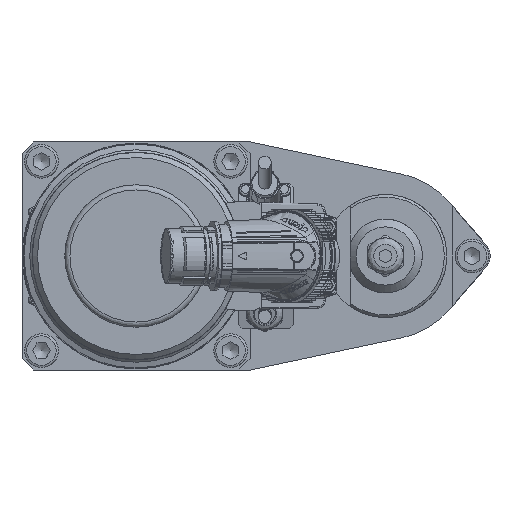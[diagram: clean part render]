
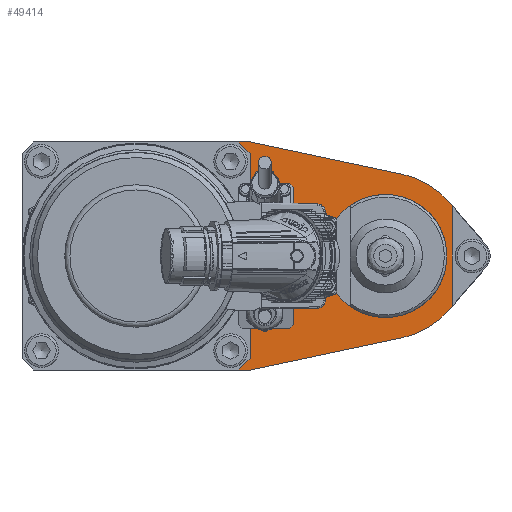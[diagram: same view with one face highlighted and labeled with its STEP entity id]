
A CAD part, left-side view. The second image highlights one B-rep face of the part: STEP entity #49414.
In plain terms, the highlighted planar face has unit normal (-1, 0, 0).
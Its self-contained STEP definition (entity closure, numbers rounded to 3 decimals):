
#1131 = CARTESIAN_POINT ( 'NONE',  ( -132., 52.213, -39.5 ) ) ;
#2420 = VERTEX_POINT ( 'NONE', #37586 ) ;
#3136 = VECTOR ( 'NONE', #42956, 1000. ) ;
#3553 = LINE ( 'NONE', #93646, #3136 ) ;
#3922 = ORIENTED_EDGE ( 'NONE', *, *, #51636, .F. ) ;
#5464 = CARTESIAN_POINT ( 'NONE',  ( -132., 19., 14.25 ) ) ;
#6250 = EDGE_CURVE ( 'NONE', #87707, #22610, #12672, .T. ) ;
#6706 = CARTESIAN_POINT ( 'NONE',  ( -132., 56.713, -44. ) ) ;
#7951 = DIRECTION ( 'NONE',  ( 0., 0., 1. ) ) ;
#8277 = VERTEX_POINT ( 'NONE', #21340 ) ;
#9535 = DIRECTION ( 'NONE',  ( 0., 0.707, -0.707 ) ) ;
#11075 = EDGE_CURVE ( 'NONE', #15580, #93232, #43860, .T. ) ;
#11140 = CARTESIAN_POINT ( 'NONE',  ( -132., 0., 0. ) ) ;
#11397 = EDGE_CURVE ( 'NONE', #81854, #2420, #39973, .T. ) ;
#12672 = CIRCLE ( 'NONE', #72614, 32.2 ) ;
#12693 = DIRECTION ( 'NONE',  ( 0., 0.656, -0.755 ) ) ;
#15580 = VERTEX_POINT ( 'NONE', #32233 ) ;
#17047 = DIRECTION ( 'NONE',  ( 0., 1., 0. ) ) ;
#17406 = CARTESIAN_POINT ( 'NONE',  ( -132., 140.213, -44. ) ) ;
#18507 = ORIENTED_EDGE ( 'NONE', *, *, #74931, .F. ) ;
#19618 = DIRECTION ( 'NONE',  ( 0., 0., 1. ) ) ;
#21340 = CARTESIAN_POINT ( 'NONE',  ( -132., -24.302, 21.125 ) ) ;
#21900 = CARTESIAN_POINT ( 'NONE',  ( -132., 140.213, 44. ) ) ;
#22185 = VECTOR ( 'NONE', #90209, 1000. ) ;
#22291 = LINE ( 'NONE', #73187, #22185 ) ;
#22610 = VERTEX_POINT ( 'NONE', #23177 ) ;
#23177 = CARTESIAN_POINT ( 'NONE',  ( -132., -6.695, -31.496 ) ) ;
#25323 = EDGE_CURVE ( 'NONE', #25454, #87707, #89367, .T. ) ;
#25454 = VERTEX_POINT ( 'NONE', #47859 ) ;
#25601 = CARTESIAN_POINT ( 'NONE',  ( -132., 0., 0. ) ) ;
#27997 = DIRECTION ( 'NONE',  ( -1., 0., 0. ) ) ;
#28223 = EDGE_CURVE ( 'NONE', #2420, #67936, #48716, .T. ) ;
#29622 = VECTOR ( 'NONE', #17047, 1000. ) ;
#29739 = LINE ( 'NONE', #17406, #29622 ) ;
#30214 = EDGE_CURVE ( 'NONE', #68749, #97334, #22291, .T. ) ;
#31295 = AXIS2_PLACEMENT_3D ( 'NONE', #91909, #58645, #7951 ) ;
#32233 = CARTESIAN_POINT ( 'NONE',  ( -132., 52.13, 44. ) ) ;
#33166 = EDGE_CURVE ( 'NONE', #52368, #25454, #91230, .T. ) ;
#33387 = CARTESIAN_POINT ( 'NONE',  ( -132., 52.13, -44. ) ) ;
#33525 = ORIENTED_EDGE ( 'NONE', *, *, #30214, .F. ) ;
#33862 = ORIENTED_EDGE ( 'NONE', *, *, #25323, .F. ) ;
#34184 = DIRECTION ( 'NONE',  ( 0., 0., 1. ) ) ;
#36028 = CARTESIAN_POINT ( 'NONE',  ( -132., 56.713, 44. ) ) ;
#36317 = CARTESIAN_POINT ( 'NONE',  ( -132., -24.302, 21.125 ) ) ;
#37129 = EDGE_LOOP ( 'NONE', ( #56081, #47343, #103422, #101462, #3922, #58109, #33862, #93674, #18507, #84450, #83304, #95655 ) ) ;
#37586 = CARTESIAN_POINT ( 'NONE',  ( -132., 52.213, 39.5 ) ) ;
#38061 = CARTESIAN_POINT ( 'NONE',  ( -132., 52.213, -39.5 ) ) ;
#39973 = LINE ( 'NONE', #36028, #40074 ) ;
#40074 = VECTOR ( 'NONE', #103348, 1000. ) ;
#42956 = DIRECTION ( 'NONE',  ( 0., 0.978, -0.208 ) ) ;
#43758 = VECTOR ( 'NONE', #58042, 1000. ) ;
#43860 = LINE ( 'NONE', #91666, #43758 ) ;
#44773 = FACE_OUTER_BOUND ( 'NONE', #37129, .T. ) ;
#44996 = FACE_BOUND ( 'NONE', #97555, .T. ) ;
#47343 = ORIENTED_EDGE ( 'NONE', *, *, #28223, .T. ) ;
#47859 = CARTESIAN_POINT ( 'NONE',  ( -132., -25.89, -19.298 ) ) ;
#48716 = LINE ( 'NONE', #109658, #49556 ) ;
#49414 = ADVANCED_FACE ( 'NONE', ( #44773, #44996 ), #108938, .T. ) ;
#49556 = VECTOR ( 'NONE', #93003, 1000. ) ;
#51636 = EDGE_CURVE ( 'NONE', #22610, #74296, #3553, .T. ) ;
#52368 = VERTEX_POINT ( 'NONE', #54391 ) ;
#54322 = EDGE_CURVE ( 'NONE', #67936, #63824, #72451, .T. ) ;
#54391 = CARTESIAN_POINT ( 'NONE',  ( -132., -25.89, 19.298 ) ) ;
#54746 = AXIS2_PLACEMENT_3D ( 'NONE', #78685, #27997, #87192 ) ;
#56081 = ORIENTED_EDGE ( 'NONE', *, *, #11397, .T. ) ;
#56099 = ORIENTED_EDGE ( 'NONE', *, *, #77696, .F. ) ;
#57379 = CIRCLE ( 'NONE', #54746, 23.75 ) ;
#58042 = DIRECTION ( 'NONE',  ( 0., -0.978, -0.208 ) ) ;
#58109 = ORIENTED_EDGE ( 'NONE', *, *, #6250, .F. ) ;
#58645 = DIRECTION ( 'NONE',  ( -1., 0., 0. ) ) ;
#58810 = VECTOR ( 'NONE', #64136, 1000. ) ;
#58838 = CARTESIAN_POINT ( 'NONE',  ( -132., -25.89, -19.298 ) ) ;
#59638 = LINE ( 'NONE', #21900, #58810 ) ;
#62312 = EDGE_CURVE ( 'NONE', #81854, #15580, #59638, .T. ) ;
#63824 = VERTEX_POINT ( 'NONE', #6706 ) ;
#64136 = DIRECTION ( 'NONE',  ( 0., -1., 0. ) ) ;
#65762 = AXIS2_PLACEMENT_3D ( 'NONE', #11140, #70368, #19618 ) ;
#67936 = VERTEX_POINT ( 'NONE', #38061 ) ;
#68749 = VERTEX_POINT ( 'NONE', #5464 ) ;
#70368 = DIRECTION ( 'NONE',  ( 1., 0., 0. ) ) ;
#71903 = VECTOR ( 'NONE', #9535, 1000. ) ;
#72451 = LINE ( 'NONE', #1131, #71903 ) ;
#72614 = AXIS2_PLACEMENT_3D ( 'NONE', #25601, #84783, #34184 ) ;
#73187 = CARTESIAN_POINT ( 'NONE',  ( -132., 19., -14.25 ) ) ;
#73937 = CARTESIAN_POINT ( 'NONE',  ( -132., 19., -14.25 ) ) ;
#74296 = VERTEX_POINT ( 'NONE', #33387 ) ;
#74931 = EDGE_CURVE ( 'NONE', #8277, #52368, #97175, .T. ) ;
#77696 = EDGE_CURVE ( 'NONE', #97334, #68749, #57379, .T. ) ;
#78685 = CARTESIAN_POINT ( 'NONE',  ( -132., 0., 0. ) ) ;
#79074 = CARTESIAN_POINT ( 'NONE',  ( -132., 56.713, 44. ) ) ;
#81854 = VERTEX_POINT ( 'NONE', #79074 ) ;
#82731 = EDGE_CURVE ( 'NONE', #93232, #8277, #93155, .T. ) ;
#83304 = ORIENTED_EDGE ( 'NONE', *, *, #11075, .F. ) ;
#84450 = ORIENTED_EDGE ( 'NONE', *, *, #82731, .F. ) ;
#84783 = DIRECTION ( 'NONE',  ( 1., 0., 0. ) ) ;
#87192 = DIRECTION ( 'NONE',  ( 0., 0., 1. ) ) ;
#87707 = VERTEX_POINT ( 'NONE', #99347 ) ;
#89355 = VECTOR ( 'NONE', #12693, 1000. ) ;
#89367 = LINE ( 'NONE', #97137, #89355 ) ;
#90209 = DIRECTION ( 'NONE',  ( 0., 0., -1. ) ) ;
#90825 = VECTOR ( 'NONE', #109512, 1000. ) ;
#91230 = LINE ( 'NONE', #58838, #90825 ) ;
#91666 = CARTESIAN_POINT ( 'NONE',  ( -132., 52.13, 44. ) ) ;
#91909 = CARTESIAN_POINT ( 'NONE',  ( -132., 49.911, 0. ) ) ;
#93003 = DIRECTION ( 'NONE',  ( 0., 0., -1. ) ) ;
#93155 = CIRCLE ( 'NONE', #65762, 32.2 ) ;
#93232 = VERTEX_POINT ( 'NONE', #109695 ) ;
#93646 = CARTESIAN_POINT ( 'NONE',  ( -132., 52.13, -44. ) ) ;
#93674 = ORIENTED_EDGE ( 'NONE', *, *, #33166, .F. ) ;
#93793 = EDGE_CURVE ( 'NONE', #74296, #63824, #29739, .T. ) ;
#95527 = DIRECTION ( 'NONE',  ( 0., -0.656, -0.755 ) ) ;
#95655 = ORIENTED_EDGE ( 'NONE', *, *, #62312, .F. ) ;
#97137 = CARTESIAN_POINT ( 'NONE',  ( -132., -24.302, -21.125 ) ) ;
#97175 = LINE ( 'NONE', #36317, #97498 ) ;
#97334 = VERTEX_POINT ( 'NONE', #73937 ) ;
#97498 = VECTOR ( 'NONE', #95527, 1000. ) ;
#97555 = EDGE_LOOP ( 'NONE', ( #33525, #56099 ) ) ;
#99347 = CARTESIAN_POINT ( 'NONE',  ( -132., -24.302, -21.125 ) ) ;
#101462 = ORIENTED_EDGE ( 'NONE', *, *, #93793, .F. ) ;
#103348 = DIRECTION ( 'NONE',  ( 0., -0.707, -0.707 ) ) ;
#103422 = ORIENTED_EDGE ( 'NONE', *, *, #54322, .T. ) ;
#108938 = PLANE ( 'NONE',  #31295 ) ;
#109512 = DIRECTION ( 'NONE',  ( 0., 0., -1. ) ) ;
#109658 = CARTESIAN_POINT ( 'NONE',  ( -132., 52.213, 44. ) ) ;
#109695 = CARTESIAN_POINT ( 'NONE',  ( -132., -6.695, 31.496 ) ) ;
